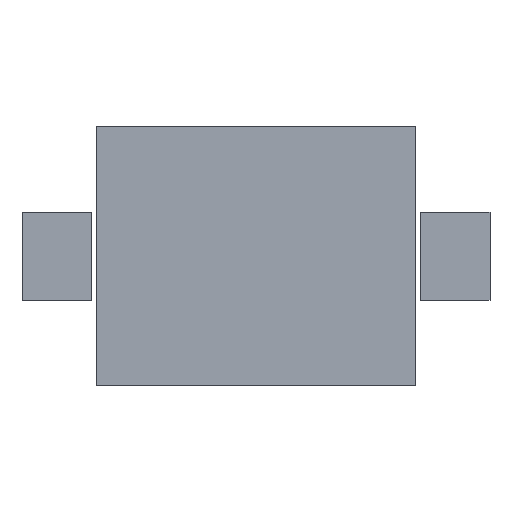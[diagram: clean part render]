
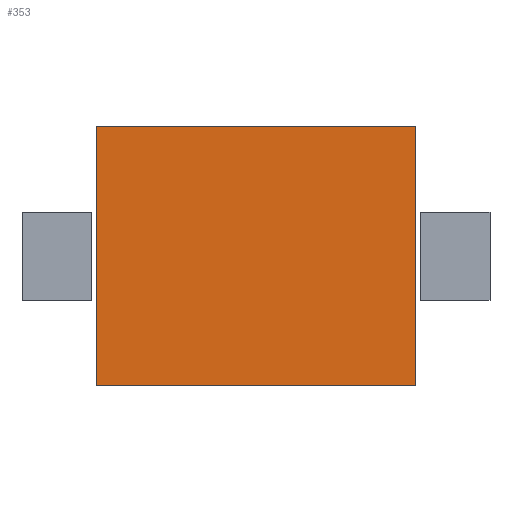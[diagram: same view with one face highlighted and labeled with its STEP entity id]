
A CAD part, top view. The second image highlights one B-rep face of the part: STEP entity #353.
In plain terms, the highlighted planar face has unit normal (0, 0, 1).
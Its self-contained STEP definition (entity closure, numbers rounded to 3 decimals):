
#39 = VERTEX_POINT('',#40);
#40 = CARTESIAN_POINT('',(-5.3,-4.305,2.95));
#47 = PLANE('',#48);
#48 = AXIS2_PLACEMENT_3D('',#49,#50,#51);
#49 = CARTESIAN_POINT('',(-5.3,-4.305,0.));
#50 = DIRECTION('',(0.,1.,0.));
#51 = DIRECTION('',(1.,0.,0.));
#59 = PLANE('',#60);
#60 = AXIS2_PLACEMENT_3D('',#61,#62,#63);
#61 = CARTESIAN_POINT('',(-5.3,4.305,0.));
#62 = DIRECTION('',(1.,0.,-0.));
#63 = DIRECTION('',(0.,-1.,0.));
#71 = EDGE_CURVE('',#39,#72,#74,.T.);
#72 = VERTEX_POINT('',#73);
#73 = CARTESIAN_POINT('',(5.3,-4.305,2.95));
#74 = SURFACE_CURVE('',#75,(#79,#86),.PCURVE_S1.);
#75 = LINE('',#76,#77);
#76 = CARTESIAN_POINT('',(-5.3,-4.305,2.95));
#77 = VECTOR('',#78,1.);
#78 = DIRECTION('',(1.,0.,0.));
#79 = PCURVE('',#47,#80);
#80 = DEFINITIONAL_REPRESENTATION('',(#81),#85);
#81 = LINE('',#82,#83);
#82 = CARTESIAN_POINT('',(0.,-2.95));
#83 = VECTOR('',#84,1.);
#84 = DIRECTION('',(1.,0.));
#85 = ( GEOMETRIC_REPRESENTATION_CONTEXT(2) 
PARAMETRIC_REPRESENTATION_CONTEXT() REPRESENTATION_CONTEXT('2D SPACE',''
  ) );
#86 = PCURVE('',#87,#92);
#87 = PLANE('',#88);
#88 = AXIS2_PLACEMENT_3D('',#89,#90,#91);
#89 = CARTESIAN_POINT('',(0.,0.,2.95));
#90 = DIRECTION('',(0.,0.,1.));
#91 = DIRECTION('',(1.,0.,0.));
#92 = DEFINITIONAL_REPRESENTATION('',(#93),#97);
#93 = LINE('',#94,#95);
#94 = CARTESIAN_POINT('',(-5.3,-4.305));
#95 = VECTOR('',#96,1.);
#96 = DIRECTION('',(1.,0.));
#97 = ( GEOMETRIC_REPRESENTATION_CONTEXT(2) 
PARAMETRIC_REPRESENTATION_CONTEXT() REPRESENTATION_CONTEXT('2D SPACE',''
  ) );
#115 = PLANE('',#116);
#116 = AXIS2_PLACEMENT_3D('',#117,#118,#119);
#117 = CARTESIAN_POINT('',(5.3,-4.305,0.));
#118 = DIRECTION('',(-1.,0.,0.));
#119 = DIRECTION('',(0.,1.,0.));
#157 = EDGE_CURVE('',#72,#158,#160,.T.);
#158 = VERTEX_POINT('',#159);
#159 = CARTESIAN_POINT('',(5.3,4.305,2.95));
#160 = SURFACE_CURVE('',#161,(#165,#172),.PCURVE_S1.);
#161 = LINE('',#162,#163);
#162 = CARTESIAN_POINT('',(5.3,-4.305,2.95));
#163 = VECTOR('',#164,1.);
#164 = DIRECTION('',(0.,1.,0.));
#165 = PCURVE('',#115,#166);
#166 = DEFINITIONAL_REPRESENTATION('',(#167),#171);
#167 = LINE('',#168,#169);
#168 = CARTESIAN_POINT('',(0.,-2.95));
#169 = VECTOR('',#170,1.);
#170 = DIRECTION('',(1.,0.));
#171 = ( GEOMETRIC_REPRESENTATION_CONTEXT(2) 
PARAMETRIC_REPRESENTATION_CONTEXT() REPRESENTATION_CONTEXT('2D SPACE',''
  ) );
#172 = PCURVE('',#87,#173);
#173 = DEFINITIONAL_REPRESENTATION('',(#174),#178);
#174 = LINE('',#175,#176);
#175 = CARTESIAN_POINT('',(5.3,-4.305));
#176 = VECTOR('',#177,1.);
#177 = DIRECTION('',(0.,1.));
#178 = ( GEOMETRIC_REPRESENTATION_CONTEXT(2) 
PARAMETRIC_REPRESENTATION_CONTEXT() REPRESENTATION_CONTEXT('2D SPACE',''
  ) );
#196 = PLANE('',#197);
#197 = AXIS2_PLACEMENT_3D('',#198,#199,#200);
#198 = CARTESIAN_POINT('',(5.3,4.305,0.));
#199 = DIRECTION('',(0.,-1.,0.));
#200 = DIRECTION('',(-1.,0.,0.));
#233 = EDGE_CURVE('',#158,#234,#236,.T.);
#234 = VERTEX_POINT('',#235);
#235 = CARTESIAN_POINT('',(-5.3,4.305,2.95));
#236 = SURFACE_CURVE('',#237,(#241,#248),.PCURVE_S1.);
#237 = LINE('',#238,#239);
#238 = CARTESIAN_POINT('',(5.3,4.305,2.95));
#239 = VECTOR('',#240,1.);
#240 = DIRECTION('',(-1.,0.,0.));
#241 = PCURVE('',#196,#242);
#242 = DEFINITIONAL_REPRESENTATION('',(#243),#247);
#243 = LINE('',#244,#245);
#244 = CARTESIAN_POINT('',(0.,-2.95));
#245 = VECTOR('',#246,1.);
#246 = DIRECTION('',(1.,0.));
#247 = ( GEOMETRIC_REPRESENTATION_CONTEXT(2) 
PARAMETRIC_REPRESENTATION_CONTEXT() REPRESENTATION_CONTEXT('2D SPACE',''
  ) );
#248 = PCURVE('',#87,#249);
#249 = DEFINITIONAL_REPRESENTATION('',(#250),#254);
#250 = LINE('',#251,#252);
#251 = CARTESIAN_POINT('',(5.3,4.305));
#252 = VECTOR('',#253,1.);
#253 = DIRECTION('',(-1.,0.));
#254 = ( GEOMETRIC_REPRESENTATION_CONTEXT(2) 
PARAMETRIC_REPRESENTATION_CONTEXT() REPRESENTATION_CONTEXT('2D SPACE',''
  ) );
#304 = EDGE_CURVE('',#234,#39,#305,.T.);
#305 = SURFACE_CURVE('',#306,(#310,#317),.PCURVE_S1.);
#306 = LINE('',#307,#308);
#307 = CARTESIAN_POINT('',(-5.3,4.305,2.95));
#308 = VECTOR('',#309,1.);
#309 = DIRECTION('',(0.,-1.,0.));
#310 = PCURVE('',#59,#311);
#311 = DEFINITIONAL_REPRESENTATION('',(#312),#316);
#312 = LINE('',#313,#314);
#313 = CARTESIAN_POINT('',(0.,-2.95));
#314 = VECTOR('',#315,1.);
#315 = DIRECTION('',(1.,0.));
#316 = ( GEOMETRIC_REPRESENTATION_CONTEXT(2) 
PARAMETRIC_REPRESENTATION_CONTEXT() REPRESENTATION_CONTEXT('2D SPACE',''
  ) );
#317 = PCURVE('',#87,#318);
#318 = DEFINITIONAL_REPRESENTATION('',(#319),#323);
#319 = LINE('',#320,#321);
#320 = CARTESIAN_POINT('',(-5.3,4.305));
#321 = VECTOR('',#322,1.);
#322 = DIRECTION('',(0.,-1.));
#323 = ( GEOMETRIC_REPRESENTATION_CONTEXT(2) 
PARAMETRIC_REPRESENTATION_CONTEXT() REPRESENTATION_CONTEXT('2D SPACE',''
  ) );
#353 = ADVANCED_FACE('',(#354),#87,.T.);
#354 = FACE_BOUND('',#355,.T.);
#355 = EDGE_LOOP('',(#356,#357,#358,#359));
#356 = ORIENTED_EDGE('',*,*,#71,.T.);
#357 = ORIENTED_EDGE('',*,*,#157,.T.);
#358 = ORIENTED_EDGE('',*,*,#233,.T.);
#359 = ORIENTED_EDGE('',*,*,#304,.T.);
